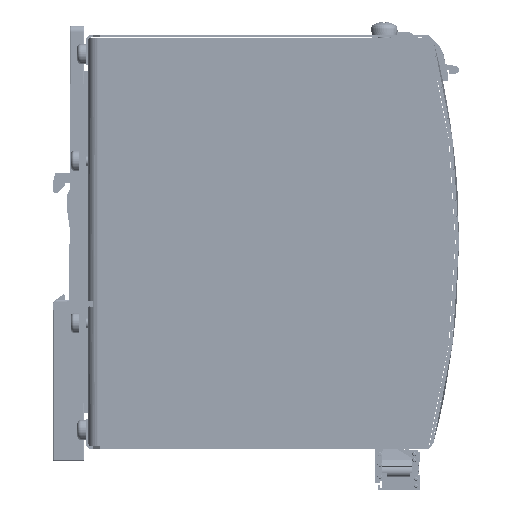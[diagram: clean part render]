
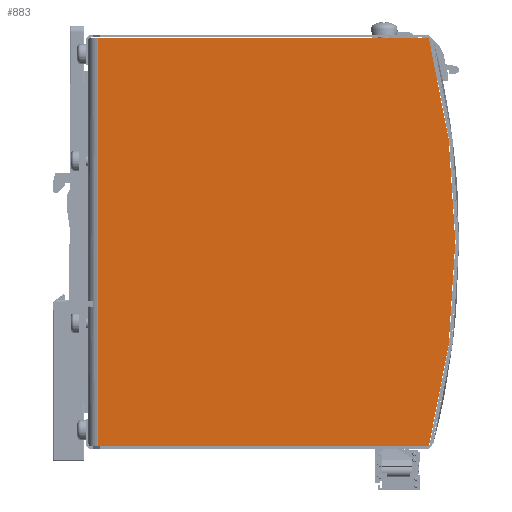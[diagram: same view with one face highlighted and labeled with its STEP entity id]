
A CAD part, front view. The second image highlights one B-rep face of the part: STEP entity #883.
In plain terms, the highlighted planar face has unit normal (0, -1, 0) as drawn and (-1, 0, 0) by its records, which use the part's own axes.
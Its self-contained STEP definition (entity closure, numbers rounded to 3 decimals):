
#407=CARTESIAN_POINT('',(-47.687,-7.832,122.3));
#408=VERTEX_POINT('',#407);
#416=CARTESIAN_POINT('',(-47.687,-7.832,0.0));
#417=VERTEX_POINT('',#416);
#418=CARTESIAN_POINT('',(-47.687,-7.832,0.0));
#419=DIRECTION('',(0.0,0.0,1.0));
#420=VECTOR('',#419,122.3);
#421=LINE('',#418,#420);
#422=EDGE_CURVE('',#417,#408,#421,.T.);
#705=CARTESIAN_POINT('',(-47.687,91.247,0.));
#706=VERTEX_POINT('',#705);
#713=CARTESIAN_POINT('',(-47.687,91.247,122.3));
#714=VERTEX_POINT('',#713);
#715=CARTESIAN_POINT('',(-47.687,-140.832,61.15));
#716=DIRECTION('',(-1.0,0.,0.));
#717=DIRECTION('',(0.,0.967,0.255));
#718=AXIS2_PLACEMENT_3D('',#715,#716,#717);
#719=CIRCLE('',#718,240.);
#720=EDGE_CURVE('',#714,#706,#719,.T.);
#834=CARTESIAN_POINT('',(-47.687,-7.832,122.3));
#835=DIRECTION('',(0.0,1.0,0.0));
#836=VECTOR('',#835,99.079);
#837=LINE('',#834,#836);
#838=EDGE_CURVE('',#408,#714,#837,.T.);
#867=CARTESIAN_POINT('',(-47.687,-7.832,0.0));
#868=DIRECTION('',(-1.0,0.0,0.0));
#869=DIRECTION('',(0.0,0.0,1.0));
#870=AXIS2_PLACEMENT_3D('',#867,#868,#869);
#871=PLANE('',#870);
#872=ORIENTED_EDGE('',*,*,#720,.T.);
#873=CARTESIAN_POINT('',(-47.687,-7.832,0.0));
#874=DIRECTION('',(0.0,1.0,0.0));
#875=VECTOR('',#874,99.079);
#876=LINE('',#873,#875);
#877=EDGE_CURVE('',#417,#706,#876,.T.);
#878=ORIENTED_EDGE('',*,*,#877,.F.);
#879=ORIENTED_EDGE('',*,*,#422,.T.);
#880=ORIENTED_EDGE('',*,*,#838,.T.);
#881=EDGE_LOOP('',(#872,#878,#879,#880));
#882=FACE_OUTER_BOUND('',#881,.T.);
#883=ADVANCED_FACE('',(#882),#871,.T.);
